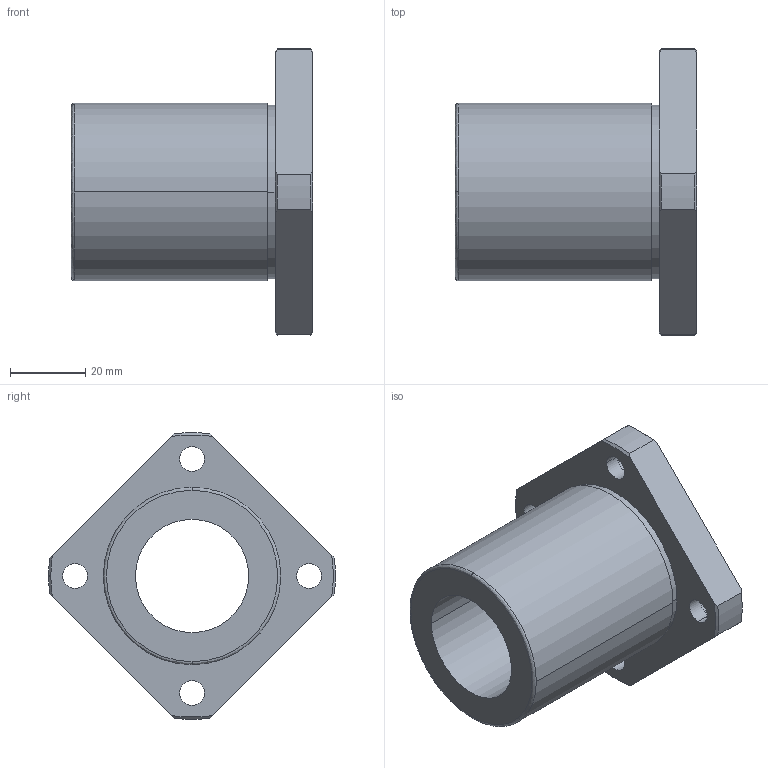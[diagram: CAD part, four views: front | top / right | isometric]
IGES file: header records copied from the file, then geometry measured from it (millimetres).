
Start section: 3D InterOp IGES (Version 21 0 1), Spatial Corp. Copyright (c) 1999-2007.
Global section: file name: NF-30VUU.igs; native system: Spatial Corp.; preprocessor: 3D InterOp GENERIC/IGES 3.0; author: Noname; organization: Noname; date: 20220308.154042; units: millimetre
Bounding box: 64 x 75.97 x 75.93 mm (x, y, z)
Surface area: 22824.4 mm2 (no closed solid volume)
Topology: 0 solids, 0 shells, 51 faces, 256 edges, 256 vertices
Faces by surface type: revolution 39, extrusion 12
